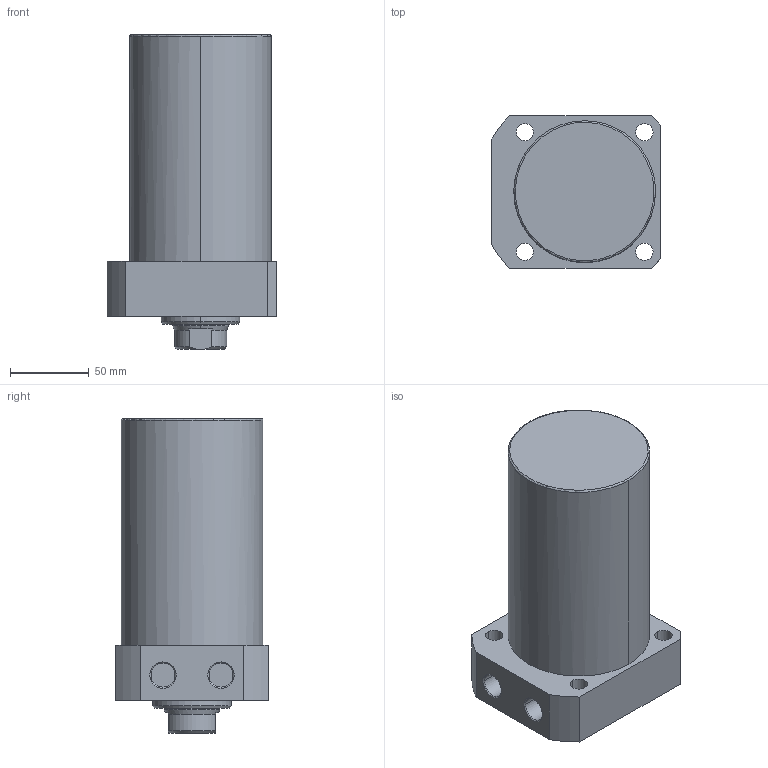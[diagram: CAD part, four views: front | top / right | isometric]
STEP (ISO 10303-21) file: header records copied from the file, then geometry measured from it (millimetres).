
FILE_DESCRIPTION((' '),'2;1');
FILE_NAME( 'TLLR-090CA-100.STEP.stp', '2025-10-24T16:35:18', (' '), ('--- Datakit www.datakit.com---'), ' Datakit CrossCadWare V2024.1 Dec 21 2023', 'Mastercam 2025', ' ');
FILE_SCHEMA(('AUTOMOTIVE_DESIGN { 1 0 10303 214 1 1 1 1 }'));
Length unit declared in the file: millimetre
Products named in the file (1): TLLR-090CA-100
Bounding box: 108 x 97 x 200 mm (x, y, z)
Volume: 1264993.8 mm3; surface area: 85802.5 mm2
Topology: 1 solids, 1 shells, 63 faces, 177 edges, 122 vertices
Faces by surface type: cylinder 28, plane 19, cone 14, torus 2
Entity records: 2172 total; most frequent: CARTESIAN_POINT 409, DIRECTION 400, ORIENTED_EDGE 350, EDGE_CURVE 175, AXIS2_PLACEMENT_3D 169, VERTEX_POINT 122, CIRCLE 105, EDGE_LOOP 79
